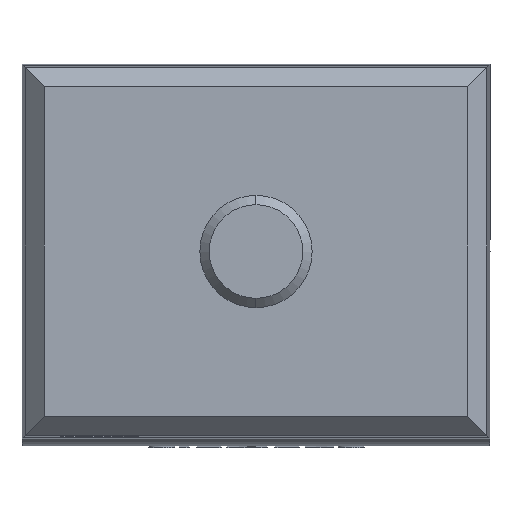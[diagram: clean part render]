
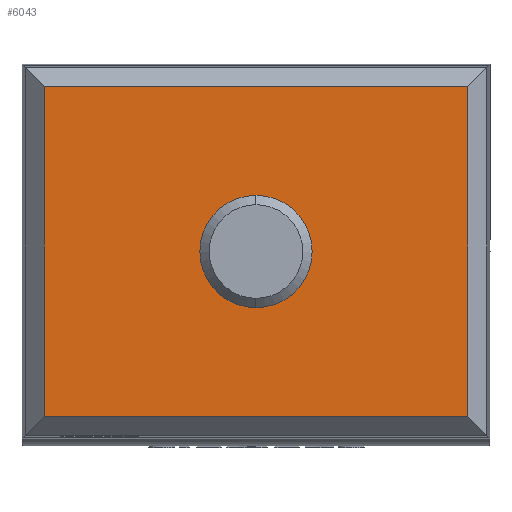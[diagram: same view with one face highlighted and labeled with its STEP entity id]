
A CAD part, front view. The second image highlights one B-rep face of the part: STEP entity #6043.
In plain terms, the highlighted planar face has unit normal (0, -1, 0).
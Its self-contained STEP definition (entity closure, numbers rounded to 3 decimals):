
#5868=CARTESIAN_POINT('',(45.222,-217.,75.222));
#5869=VERTEX_POINT('',#5868);
#5876=CARTESIAN_POINT('',(45.222,-217.,4.778));
#5877=VERTEX_POINT('',#5876);
#5878=CARTESIAN_POINT('',(45.222,-217.,75.222));
#5879=DIRECTION('',(0.0,0.0,-1.0));
#5880=VECTOR('',#5879,70.444);
#5881=LINE('',#5878,#5880);
#5882=EDGE_CURVE('',#5869,#5877,#5881,.T.);
#5907=CARTESIAN_POINT('',(-45.222,-217.,4.778));
#5908=VERTEX_POINT('',#5907);
#5909=CARTESIAN_POINT('',(45.222,-217.,4.778));
#5910=DIRECTION('',(-1.0,0.0,0.0));
#5911=VECTOR('',#5910,90.444);
#5912=LINE('',#5909,#5911);
#5913=EDGE_CURVE('',#5877,#5908,#5912,.T.);
#5937=CARTESIAN_POINT('',(-45.222,-217.,75.222));
#5938=VERTEX_POINT('',#5937);
#5945=CARTESIAN_POINT('',(-45.222,-217.,75.222));
#5946=DIRECTION('',(1.0,0.0,0.0));
#5947=VECTOR('',#5946,90.444);
#5948=LINE('',#5945,#5947);
#5949=EDGE_CURVE('',#5938,#5869,#5948,.T.);
#5967=CARTESIAN_POINT('',(-45.222,-217.,4.778));
#5968=DIRECTION('',(0.0,0.0,1.0));
#5969=VECTOR('',#5968,70.444);
#5970=LINE('',#5967,#5969);
#5971=EDGE_CURVE('',#5908,#5938,#5970,.T.);
#6032=CARTESIAN_POINT('',(0.,-217.,40.));
#6033=DIRECTION('',(0.0,1.0,0.0));
#6034=DIRECTION('',(0.0,0.0,-1.0));
#6035=AXIS2_PLACEMENT_3D('',#6032,#6033,#6034);
#6036=PLANE('',#6035);
#6037=ORIENTED_EDGE('',*,*,#5882,.F.);
#6038=ORIENTED_EDGE('',*,*,#5949,.F.);
#6039=ORIENTED_EDGE('',*,*,#5971,.F.);
#6040=ORIENTED_EDGE('',*,*,#5913,.F.);
#6041=EDGE_LOOP('',(#6037,#6038,#6039,#6040));
#6042=FACE_OUTER_BOUND('',#6041,.T.);
#6043=ADVANCED_FACE('',(#6042),#6036,.F.);
